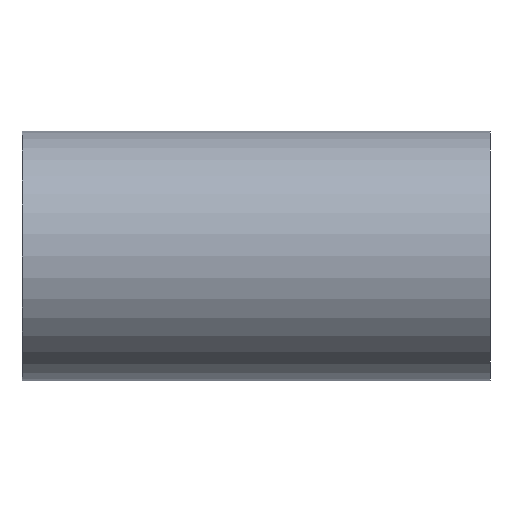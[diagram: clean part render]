
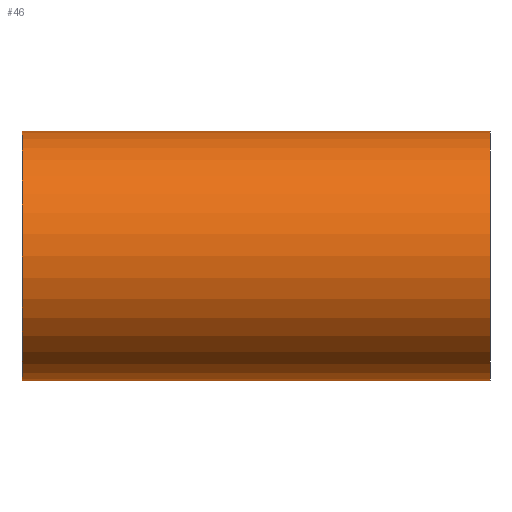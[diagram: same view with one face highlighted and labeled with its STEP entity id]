
A CAD part, front view. The second image highlights one B-rep face of the part: STEP entity #46.
In plain terms, the highlighted cylindrical face has radius 4 mm (diameter 8 mm), a full revolution.
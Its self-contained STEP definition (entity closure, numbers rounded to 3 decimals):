
#46=ADVANCED_FACE('',(#54,#55),#49,.T.);
#49=CYLINDRICAL_SURFACE('',#93,4.);
#54=FACE_BOUND('',#62,.T.);
#55=FACE_BOUND('',#63,.T.);
#62=EDGE_LOOP('',(#70));
#63=EDGE_LOOP('',(#71));
#70=ORIENTED_EDGE('',*,*,#81,.F.);
#71=ORIENTED_EDGE('',*,*,#80,.T.);
#76=VERTEX_POINT('',#120);
#77=VERTEX_POINT('',#123);
#80=EDGE_CURVE('',#76,#76,#84,.T.);
#81=EDGE_CURVE('',#77,#77,#85,.T.);
#84=CIRCLE('',#90,4.);
#85=CIRCLE('',#92,4.);
#90=AXIS2_PLACEMENT_3D('',#119,#103,#104);
#92=AXIS2_PLACEMENT_3D('',#122,#107,#108);
#93=AXIS2_PLACEMENT_3D('',#124,#109,#110);
#103=DIRECTION('',(1.,0.,0.));
#104=DIRECTION('',(0.,1.,0.));
#107=DIRECTION('',(1.,0.,0.));
#108=DIRECTION('',(0.,1.,0.));
#109=DIRECTION('',(1.,0.,0.));
#110=DIRECTION('',(0.,1.,0.));
#119=CARTESIAN_POINT('',(13.,0.,0.));
#120=CARTESIAN_POINT('',(13.,4.,0.));
#122=CARTESIAN_POINT('',(28.,0.,0.));
#123=CARTESIAN_POINT('',(28.,4.,0.));
#124=CARTESIAN_POINT('',(7.74,0.,0.));
